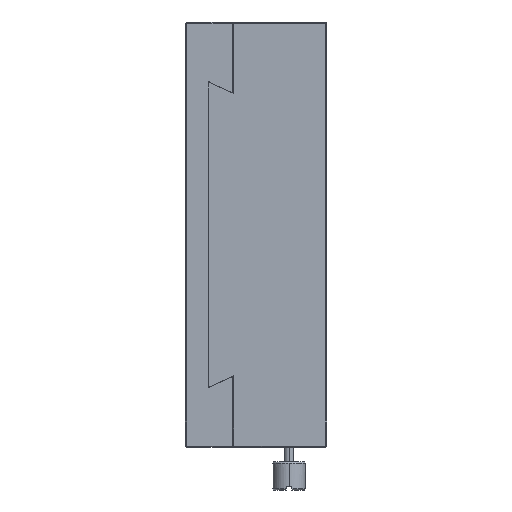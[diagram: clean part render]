
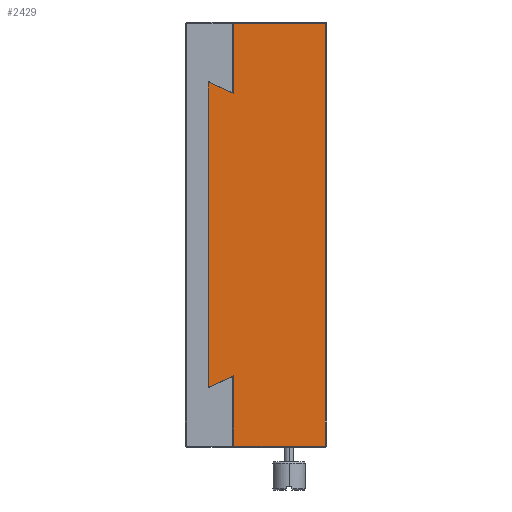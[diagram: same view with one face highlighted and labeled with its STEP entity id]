
A CAD part, left-side view. The second image highlights one B-rep face of the part: STEP entity #2429.
In plain terms, the highlighted planar face has unit normal (-1, 0, 0).
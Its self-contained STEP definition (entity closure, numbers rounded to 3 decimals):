
#193 = CARTESIAN_POINT ( 'NONE',  ( -45., 25.082, -32.309 ) ) ;
#593 = VECTOR ( 'NONE', #6192, 1000. ) ;
#836 = DIRECTION ( 'NONE',  ( 0., 0., -1. ) ) ;
#1735 = EDGE_CURVE ( 'NONE', #2778, #9332, #14633, .T. ) ;
#2105 = CARTESIAN_POINT ( 'NONE',  ( -45., 0.3, 45. ) ) ;
#2341 = ORIENTED_EDGE ( 'NONE', *, *, #2490, .T. ) ;
#2392 = CARTESIAN_POINT ( 'NONE',  ( -45., 21.546, 30.715 ) ) ;
#2429 = ADVANCED_FACE ( 'NONE', ( #14654 ), #13321, .F. ) ;
#2490 = EDGE_CURVE ( 'NONE', #2570, #3340, #14985, .T. ) ;
#2570 = VERTEX_POINT ( 'NONE', #10265 ) ;
#2778 = VERTEX_POINT ( 'NONE', #4285 ) ;
#3104 = ORIENTED_EDGE ( 'NONE', *, *, #15093, .T. ) ;
#3221 = VECTOR ( 'NONE', #4082, 1000. ) ;
#3298 = CARTESIAN_POINT ( 'NONE',  ( -45., 19.7, -44.7 ) ) ;
#3340 = VERTEX_POINT ( 'NONE', #15034 ) ;
#3471 = DIRECTION ( 'NONE',  ( 0., 0., -1. ) ) ;
#4082 = DIRECTION ( 'NONE',  ( 0., 1., 0. ) ) ;
#4285 = CARTESIAN_POINT ( 'NONE',  ( -45., 19.786, 29.901 ) ) ;
#4469 = VERTEX_POINT ( 'NONE', #193 ) ;
#4733 = AXIS2_PLACEMENT_3D ( 'NONE', #10791, #15925, #13402 ) ;
#4734 = CARTESIAN_POINT ( 'NONE',  ( -45., 19.7, -45. ) ) ;
#5867 = CARTESIAN_POINT ( 'NONE',  ( -45., 23.311, 31.519 ) ) ;
#5880 = VERTEX_POINT ( 'NONE', #12397 ) ;
#5905 = CARTESIAN_POINT ( 'NONE',  ( -45., 21.489, -30.689 ) ) ;
#6192 = DIRECTION ( 'NONE',  ( 0., 0., 1. ) ) ;
#6292 = ORIENTED_EDGE ( 'NONE', *, *, #6440, .T. ) ;
#6440 = EDGE_CURVE ( 'NONE', #11631, #2570, #15232, .T. ) ;
#7328 = CARTESIAN_POINT ( 'NONE',  ( -45., 19.7, -29.861 ) ) ;
#7451 = LINE ( 'NONE', #16647, #593 ) ;
#7750 = VERTEX_POINT ( 'NONE', #14797 ) ;
#8044 = CARTESIAN_POINT ( 'NONE',  ( -45., 0., -44.7 ) ) ;
#8517 = CARTESIAN_POINT ( 'NONE',  ( -45., 19.786, -45. ) ) ;
#8681 = CARTESIAN_POINT ( 'NONE',  ( -45., 25.082, -32.309 ) ) ;
#8750 = EDGE_CURVE ( 'NONE', #3340, #7750, #14657, .T. ) ;
#8829 = DIRECTION ( 'NONE',  ( 0., -1., 0. ) ) ;
#9332 = VERTEX_POINT ( 'NONE', #13465 ) ;
#9489 = VECTOR ( 'NONE', #3471, 1000. ) ;
#10058 = EDGE_LOOP ( 'NONE', ( #3104, #6292, #2341, #16456, #13359, #16502, #15752, #11786 ) ) ;
#10265 = CARTESIAN_POINT ( 'NONE',  ( -45., 0.3, -44.7 ) ) ;
#10791 = CARTESIAN_POINT ( 'NONE',  ( -45., 28., -45. ) ) ;
#11022 = CARTESIAN_POINT ( 'NONE',  ( -45., 19.786, 29.901 ) ) ;
#11631 = VERTEX_POINT ( 'NONE', #3298 ) ;
#11669 = CARTESIAN_POINT ( 'NONE',  ( -45., 28., 44.7 ) ) ;
#11786 = ORIENTED_EDGE ( 'NONE', *, *, #12295, .F. ) ;
#12030 = B_SPLINE_CURVE_WITH_KNOTS ( 'NONE', 3,
 ( #7328, #5905, #16266, #8681 ),
 .UNSPECIFIED., .F., .F.,
 ( 4, 4 ),
 ( 0.042, 0.048 ),
 .UNSPECIFIED. ) ;
#12295 = EDGE_CURVE ( 'NONE', #5880, #4469, #12030, .T. ) ;
#12397 = CARTESIAN_POINT ( 'NONE',  ( -45., 19.7, -29.861 ) ) ;
#12421 = EDGE_CURVE ( 'NONE', #7750, #2778, #14915, .T. ) ;
#12483 = LINE ( 'NONE', #4734, #9489 ) ;
#13082 = VECTOR ( 'NONE', #8829, 1000. ) ;
#13308 = EDGE_CURVE ( 'NONE', #4469, #9332, #7451, .T. ) ;
#13321 = PLANE ( 'NONE',  #4733 ) ;
#13359 = ORIENTED_EDGE ( 'NONE', *, *, #12421, .T. ) ;
#13402 = DIRECTION ( 'NONE',  ( 0., 0., -1. ) ) ;
#13465 = CARTESIAN_POINT ( 'NONE',  ( -45., 25.082, 32.309 ) ) ;
#13983 = DIRECTION ( 'NONE',  ( 0., 0., 1. ) ) ;
#14633 = B_SPLINE_CURVE_WITH_KNOTS ( 'NONE', 3,
 ( #11022, #2392, #5867, #16149 ),
 .UNSPECIFIED., .F., .F.,
 ( 4, 4 ),
 ( 0.042, 0.048 ),
 .UNSPECIFIED. ) ;
#14654 = FACE_OUTER_BOUND ( 'NONE', #10058, .T. ) ;
#14657 = LINE ( 'NONE', #11669, #3221 ) ;
#14768 = VECTOR ( 'NONE', #836, 1000. ) ;
#14797 = CARTESIAN_POINT ( 'NONE',  ( -45., 19.786, 44.7 ) ) ;
#14915 = LINE ( 'NONE', #8517, #14768 ) ;
#14985 = LINE ( 'NONE', #2105, #16566 ) ;
#15034 = CARTESIAN_POINT ( 'NONE',  ( -45., 0.3, 44.7 ) ) ;
#15093 = EDGE_CURVE ( 'NONE', #5880, #11631, #12483, .T. ) ;
#15232 = LINE ( 'NONE', #8044, #13082 ) ;
#15752 = ORIENTED_EDGE ( 'NONE', *, *, #13308, .F. ) ;
#15925 = DIRECTION ( 'NONE',  ( 1., 0., 0. ) ) ;
#16149 = CARTESIAN_POINT ( 'NONE',  ( -45., 25.082, 32.309 ) ) ;
#16266 = CARTESIAN_POINT ( 'NONE',  ( -45., 23.282, -31.506 ) ) ;
#16456 = ORIENTED_EDGE ( 'NONE', *, *, #8750, .T. ) ;
#16502 = ORIENTED_EDGE ( 'NONE', *, *, #1735, .T. ) ;
#16566 = VECTOR ( 'NONE', #13983, 1000. ) ;
#16647 = CARTESIAN_POINT ( 'NONE',  ( -45., 25.082, 0. ) ) ;
